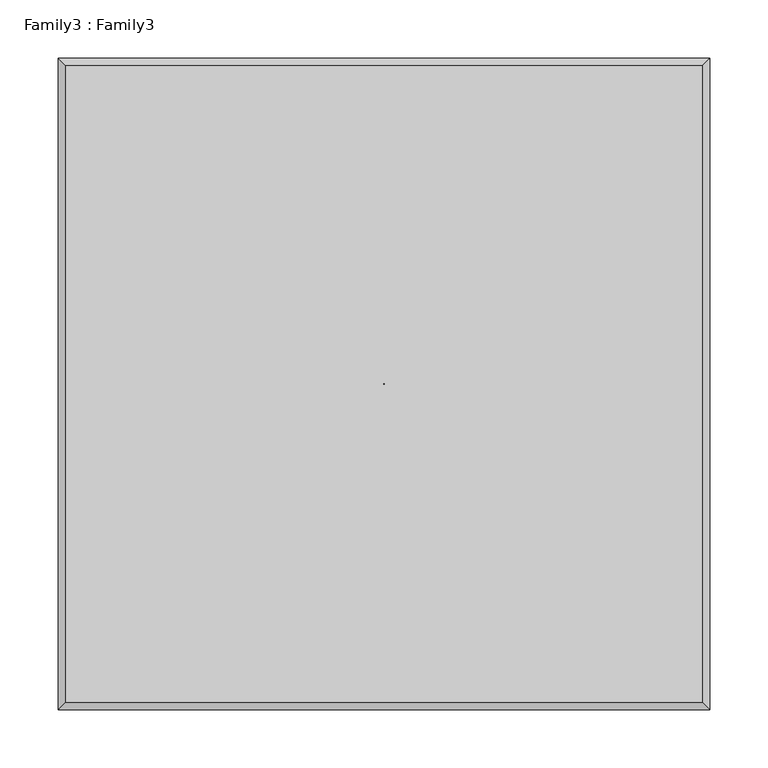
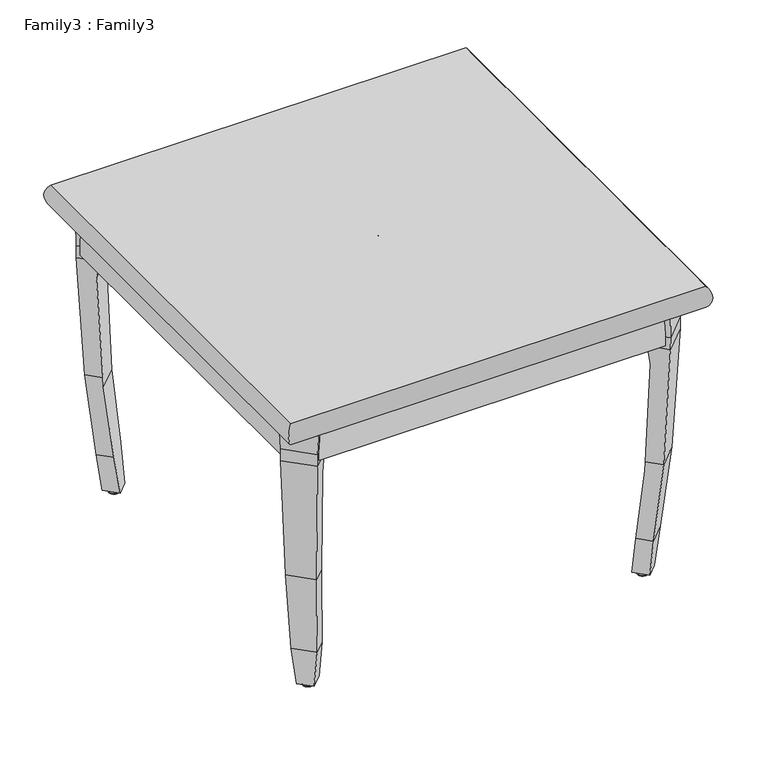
"""IFC4 building model written with IfcOpenShell, lengths in millimetres: furniture geometry, Family3 : Family3."""

from ifc_helpers import new_model, si_unit, point, frame, origin, place, context, project, spatial, polyline, circle_curve, ellipse_curve, trimmed, outline, extrude, faceted_brep, source, transform, mapped, element, save
from ifc_brep_helpers import plane_surface, cylinder_surface, revolved_surface, advanced_brep


def family3_family3_0510ef79(model_context):
    return source(origin(), model_context, "Body", "SolidModel", [
        advanced_brep(
        [(220.4861252, -221.2947805, 6.0), (214.8292712, -215.6379265, 6.0), (226.1429792, -226.9516345, 6.0), (224.5468978, -225.3555531, 0.0), (216.4253526, -217.2340079, 0.0), (220.4861252, -221.2947805, 0.0), (225.5579859, -226.3666412, 1.2429883), (215.4142646, -216.2229199, 1.2429883)],
        [
            (0, 1),
            (1, 2, circle_curve(frame((220.4861252, -221.2947805, 6.0), z_axis=(0.0, 0.0, 1.0), x_axis=(-0.7071067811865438, 0.7071067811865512, 0.0)), 7.9999997)),
            (2, 0),
            (2, 1, circle_curve(frame((220.4861252, -221.2947805, 6.0), z_axis=(0.0, 0.0, 1.0), x_axis=(-0.7071067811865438, 0.7071067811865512, 0.0)), 7.9999997)),
            (3, 4, circle_curve(frame((220.4861252, -221.2947805, 0.0), z_axis=(0.0, 0.0, -1.0), x_axis=(-0.7071067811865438, 0.7071067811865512, 0.0)), 5.7427997)),
            (4, 5),
            (5, 3),
            (4, 3, circle_curve(frame((220.4861252, -221.2947805, 0.0), z_axis=(0.0, 0.0, -1.0), x_axis=(-0.7071067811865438, 0.7071067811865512, 0.0)), 5.7427997)),
            (6, 7, circle_curve(frame((220.4861252, -221.2947805, 1.2429883), z_axis=(0.0, 0.0, -1.0), x_axis=(-0.7071067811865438, 0.7071067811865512, 0.0)), 7.1726941)),
            (7, 4, circle_curve(frame((217.1283684, -217.9370237, 2.5876597), z_axis=(-0.7071067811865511, -0.7071067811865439, 0.0), x_axis=(-0.7071067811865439, 0.7071067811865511, 0.0)), 2.7720832)),
            (3, 6, circle_curve(frame((223.8438821, -224.6525373, 2.5876597), z_axis=(-0.7071067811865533, -0.7071067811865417, 0.0), x_axis=(0.7071067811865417, -0.7071067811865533, 0.0)), 2.7720832)),
            (7, 6, circle_curve(frame((220.4861252, -221.2947805, 1.2429883), z_axis=(0.0, 0.0, -1.0), x_axis=(-0.7071067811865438, 0.7071067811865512, 0.0)), 7.1726941)),
            (1, 7),
            (6, 2),
        ],
        [
            plane_surface(frame((220.4861252, -221.2947805, 6.0), z_axis=(0.0, 0.0, 1.0), x_axis=(-0.7071067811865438, 0.7071067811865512, 0.0))),
            plane_surface(frame((220.4861252, -221.2947805, 0.0), z_axis=(0.0, 0.0, -1.0), x_axis=(-0.7071067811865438, 0.7071067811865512, 0.0))),
            revolved_surface(trimmed(ellipse_curve(frame((217.1283684, -217.9370237, 2.5876597), z_axis=(0.7071067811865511, 0.7071067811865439, 0.0), x_axis=(-0.7071067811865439, 0.7071067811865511, 0.0)), 2.7720832, 2.7720832), [point((216.4253526, -217.2340079, 0.0))], [point((215.4142646, -216.2229199, 1.2429883))], True, "CARTESIAN"), (220.4861252, -221.2947805, 6.0), (0.0, 0.0, 1.0)),
            revolved_surface(polyline([(215.4142646, -216.2229199, 1.2429883), (214.8292712, -215.6379265, 6.0)]), (220.4861252, -221.2947805, 6.0), (0.0, 0.0, 1.0)),
        ],
        [
            (0, [[1, 2, 3]]),
            (0, [[-3, 4, -1]]),
            (1, [[5, 6, 7]]),
            (1, [[8, -7, -6]]),
            (2, [[9, 10, -5, 11]]),
            (2, [[12, -11, -8, -10]]),
            (3, [[-2, 13, -9, 14]]),
            (3, [[-4, -14, -12, -13]]),
        ],
    ),
        faceted_brep([(238.7060123, -213.9503288, 156.4272796), (213.1416735, -239.5146676, 156.4272796), (213.3409314, -240.1748059, 168.9577284), (216.0835068, -246.9648054, 307.9477003), (246.1561501, -216.892162, 307.9477003), (239.3661506, -214.1495866, 168.9577284), (212.9372326, -244.5480588, 332.9999334), (243.7393984, -213.7458812, 332.9999866), (212.9391022, -244.5461774, 349.5791345), (211.7636244, -245.7216553, 382.9999869), (244.913, -212.5722797, 382.9999869), (243.7375221, -213.7477575, 349.5791345), (231.3651532, -265.3231841, 382.9999869), (264.5145288, -232.1738085, 382.9999869), (232.623116, -264.2301912, 349.5791345), (263.4215359, -233.4317713, 349.5791345), (232.3519026, -263.9589868, 332.8714334), (263.1503316, -233.1605579, 332.8714334), (228.5547052, -255.3885797, 168.9577284), (254.5799244, -229.3633605, 168.9577284), (221.5230668, -244.283162, 58.1995499), (243.4745067, -222.3317221, 58.1995499), (221.2332589, -236.4022841, 6.0), (235.5936288, -222.0419142, 6.0), (206.2348694, -221.4038945, 6.0), (220.5952392, -207.0435247, 6.0), (228.7314307, -207.588646, 58.1995499), (206.7799907, -229.5400859, 58.1995499)], [[[0, 1, 2, 3, 4, 5]], [[4, 3, 6, 7]], [[7, 6, 8, 9, 10, 11]], [[10, 9, 12, 13]], [[13, 12, 14, 15]], [[15, 14, 16, 17]], [[17, 16, 18, 19]], [[19, 18, 20, 21]], [[21, 20, 22, 23]], [[23, 22, 24, 25]], [[1, 0, 26, 25, 24, 27]], [[26, 21, 23, 25]], [[21, 26, 0, 5, 19]], [[7, 17, 19, 5, 4]], [[17, 7, 11, 15]], [[15, 11, 10, 13]], [[8, 14, 12, 9]], [[6, 16, 14, 8]], [[16, 6, 3, 2, 18]], [[18, 2, 1, 27, 20]], [[20, 27, 24, 22]]]),
        advanced_brep(
        [(-220.4861252, -221.2947805, 6.0), (-226.1429792, -226.9516345, 6.0), (-214.8292712, -215.6379265, 6.0), (-224.5468978, -225.3555531, 0.0), (-220.4861252, -221.2947805, 0.0), (-216.4253526, -217.2340079, 0.0), (-225.5579859, -226.3666412, 1.2429883), (-215.4142646, -216.2229199, 1.2429883)],
        [
            (0, 1),
            (1, 2, circle_curve(frame((-220.4861252, -221.2947805, 6.0), z_axis=(0.0, 0.0, 1.0), x_axis=(0.7071067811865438, 0.7071067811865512, 0.0)), 7.9999997)),
            (2, 0),
            (2, 1, circle_curve(frame((-220.4861252, -221.2947805, 6.0), z_axis=(0.0, 0.0, 1.0), x_axis=(0.7071067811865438, 0.7071067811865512, 0.0)), 7.9999997)),
            (3, 4),
            (4, 5),
            (5, 3, circle_curve(frame((-220.4861252, -221.2947805, 0.0), z_axis=(0.0, 0.0, -1.0), x_axis=(0.7071067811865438, 0.7071067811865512, 0.0)), 5.7427997)),
            (3, 5, circle_curve(frame((-220.4861252, -221.2947805, 0.0), z_axis=(0.0, 0.0, -1.0), x_axis=(0.7071067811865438, 0.7071067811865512, 0.0)), 5.7427997)),
            (6, 3, circle_curve(frame((-223.8438821, -224.6525373, 2.5876597), z_axis=(0.7071067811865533, -0.7071067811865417, 0.0), x_axis=(-0.7071067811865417, -0.7071067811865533, 0.0)), 2.7720832)),
            (5, 7, circle_curve(frame((-217.1283684, -217.9370237, 2.5876597), z_axis=(0.7071067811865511, -0.7071067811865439, 0.0), x_axis=(0.7071067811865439, 0.7071067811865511, 0.0)), 2.7720832)),
            (7, 6, circle_curve(frame((-220.4861252, -221.2947805, 1.2429883), z_axis=(0.0, 0.0, -1.0), x_axis=(0.7071067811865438, 0.7071067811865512, 0.0)), 7.1726941)),
            (6, 7, circle_curve(frame((-220.4861252, -221.2947805, 1.2429883), z_axis=(0.0, 0.0, -1.0), x_axis=(0.7071067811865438, 0.7071067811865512, 0.0)), 7.1726941)),
            (1, 6),
            (7, 2),
        ],
        [
            plane_surface(frame((-220.4861252, -221.2947805, 6.0), z_axis=(0.0, 0.0, 1.0), x_axis=(0.7071067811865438, 0.7071067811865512, 0.0))),
            plane_surface(frame((-220.4861252, -221.2947805, 0.0), z_axis=(0.0, 0.0, -1.0), x_axis=(0.7071067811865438, 0.7071067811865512, 0.0))),
            revolved_surface(trimmed(ellipse_curve(frame((-217.1283684, -217.9370237, 2.5876597), z_axis=(0.7071067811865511, -0.7071067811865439, 0.0), x_axis=(0.7071067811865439, 0.7071067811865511, 0.0)), 2.7720832, 2.7720832), [point((-216.4253526, -217.2340079, 0.0))], [point((-215.4142646, -216.2229199, 1.2429883))], True, "CARTESIAN"), (-220.4861252, -221.2947805, 6.0), (0.0, 0.0, 1.0)),
            revolved_surface(polyline([(-215.4142646, -216.2229199, 1.2429883), (-214.8292712, -215.6379265, 6.0)]), (-220.4861252, -221.2947805, 6.0), (0.0, 0.0, 1.0)),
        ],
        [
            (0, [[1, 2, 3]]),
            (0, [[-3, 4, -1]]),
            (1, [[5, 6, 7]]),
            (1, [[-6, -5, 8]]),
            (2, [[9, -7, 10, 11]]),
            (2, [[-10, -8, -9, 12]]),
            (3, [[13, -11, 14, -2]]),
            (3, [[-14, -12, -13, -4]]),
        ],
    ),
        faceted_brep([(-238.7060123, -213.9503288, 156.4272796), (-239.3661506, -214.1495866, 168.9577284), (-246.1561501, -216.892162, 307.9477003), (-216.0835068, -246.9648054, 307.9477003), (-213.3409314, -240.1748059, 168.9577284), (-213.1416735, -239.5146676, 156.4272796), (-243.7393984, -213.7458812, 332.9999866), (-212.9390977, -244.5461819, 332.9999866), (-243.7375221, -213.7477575, 349.5791345), (-244.913, -212.5722797, 382.9999869), (-211.7636244, -245.7216553, 382.9999869), (-212.9391022, -244.5461774, 349.5791345), (-264.5145288, -232.1738085, 382.9999869), (-231.3651532, -265.3231841, 382.9999869), (-263.4215359, -233.4317713, 349.5791345), (-232.623116, -264.2301912, 349.5791345), (-263.1503316, -233.1605579, 332.8714334), (-232.3519026, -263.9589868, 332.8714334), (-254.5799244, -229.3633605, 168.9577284), (-228.5547052, -255.3885797, 168.9577284), (-243.4745067, -222.3317221, 58.1995499), (-221.5230668, -244.283162, 58.1995499), (-235.5936288, -222.0419142, 6.0), (-221.2332589, -236.4022841, 6.0), (-220.5952392, -207.0435247, 6.0), (-206.2348694, -221.4038945, 6.0), (-206.7799907, -229.5400859, 58.1995499), (-228.7314307, -207.588646, 58.1995499)], [[[0, 1, 2, 3, 4, 5]], [[2, 6, 7, 3]], [[6, 8, 9, 10, 11, 7]], [[9, 12, 13, 10]], [[12, 14, 15, 13]], [[14, 16, 17, 15]], [[16, 18, 19, 17]], [[18, 20, 21, 19]], [[20, 22, 23, 21]], [[22, 24, 25, 23]], [[5, 26, 25, 24, 27, 0]], [[27, 24, 22, 20]], [[20, 18, 1, 0, 27]], [[6, 2, 1, 18, 16]], [[16, 14, 8, 6]], [[14, 12, 9, 8]], [[11, 10, 13, 15]], [[7, 11, 15, 17]], [[17, 19, 4, 3, 7]], [[19, 21, 26, 5, 4]], [[21, 23, 25, 26]]]),
        advanced_brep(
        [(-220.4861252, 221.2947805, 6.0), (-214.8292712, 215.6379265, 6.0), (-226.1429792, 226.9516345, 6.0), (-224.5468978, 225.3555531, 0.0), (-216.4253526, 217.2340079, 0.0), (-220.4861252, 221.2947805, 0.0), (-225.5579859, 226.3666412, 1.2429883), (-215.4142646, 216.2229199, 1.2429883)],
        [
            (0, 1),
            (1, 2, circle_curve(frame((-220.4861252, 221.2947805, 6.0), z_axis=(0.0, 0.0, 1.0), x_axis=(0.7071067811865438, -0.7071067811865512, 0.0)), 7.9999997)),
            (2, 0),
            (2, 1, circle_curve(frame((-220.4861252, 221.2947805, 6.0), z_axis=(0.0, 0.0, 1.0), x_axis=(0.7071067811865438, -0.7071067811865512, 0.0)), 7.9999997)),
            (3, 4, circle_curve(frame((-220.4861252, 221.2947805, 0.0), z_axis=(0.0, 0.0, -1.0), x_axis=(0.7071067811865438, -0.7071067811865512, 0.0)), 5.7427997)),
            (4, 5),
            (5, 3),
            (4, 3, circle_curve(frame((-220.4861252, 221.2947805, 0.0), z_axis=(0.0, 0.0, -1.0), x_axis=(0.7071067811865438, -0.7071067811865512, 0.0)), 5.7427997)),
            (6, 7, circle_curve(frame((-220.4861252, 221.2947805, 1.2429883), z_axis=(0.0, 0.0, -1.0), x_axis=(0.7071067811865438, -0.7071067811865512, 0.0)), 7.1726941)),
            (7, 4, circle_curve(frame((-217.1283684, 217.9370237, 2.5876597), z_axis=(0.7071067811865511, 0.7071067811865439, 0.0), x_axis=(0.7071067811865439, -0.7071067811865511, 0.0)), 2.7720832)),
            (3, 6, circle_curve(frame((-223.8438821, 224.6525373, 2.5876597), z_axis=(0.7071067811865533, 0.7071067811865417, 0.0), x_axis=(-0.7071067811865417, 0.7071067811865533, 0.0)), 2.7720832)),
            (7, 6, circle_curve(frame((-220.4861252, 221.2947805, 1.2429883), z_axis=(0.0, 0.0, -1.0), x_axis=(0.7071067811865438, -0.7071067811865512, 0.0)), 7.1726941)),
            (1, 7),
            (6, 2),
        ],
        [
            plane_surface(frame((-220.4861252, 221.2947805, 6.0), z_axis=(0.0, 0.0, 1.0), x_axis=(0.7071067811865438, -0.7071067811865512, 0.0))),
            plane_surface(frame((-220.4861252, 221.2947805, 0.0), z_axis=(0.0, 0.0, -1.0), x_axis=(0.7071067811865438, -0.7071067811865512, 0.0))),
            revolved_surface(trimmed(ellipse_curve(frame((-217.1283684, 217.9370237, 2.5876597), z_axis=(-0.7071067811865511, -0.7071067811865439, 0.0), x_axis=(0.7071067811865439, -0.7071067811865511, 0.0)), 2.7720832, 2.7720832), [point((-216.4253526, 217.2340079, 0.0))], [point((-215.4142646, 216.2229199, 1.2429883))], True, "CARTESIAN"), (-220.4861252, 221.2947805, 6.0), (0.0, 0.0, 1.0)),
            revolved_surface(polyline([(-215.4142646, 216.2229199, 1.2429883), (-214.8292712, 215.6379265, 6.0)]), (-220.4861252, 221.2947805, 6.0), (0.0, 0.0, 1.0)),
        ],
        [
            (0, [[1, 2, 3]]),
            (0, [[-3, 4, -1]]),
            (1, [[5, 6, 7]]),
            (1, [[8, -7, -6]]),
            (2, [[9, 10, -5, 11]]),
            (2, [[12, -11, -8, -10]]),
            (3, [[-2, 13, -9, 14]]),
            (3, [[-4, -14, -12, -13]]),
        ],
    ),
        faceted_brep([(-238.7060123, 213.9503288, 156.4272796), (-213.1416735, 239.5146676, 156.4272796), (-213.3409314, 240.1748059, 168.9577284), (-216.0835068, 246.9648054, 307.9477003), (-246.1561501, 216.892162, 307.9477003), (-239.3661506, 214.1495866, 168.9577284), (-212.9372326, 244.5480588, 332.9999334), (-243.7393984, 213.7458812, 332.9999866), (-212.9391022, 244.5461774, 349.5791345), (-211.7636244, 245.7216553, 382.9999869), (-244.913, 212.5722797, 382.9999869), (-243.7375221, 213.7477575, 349.5791345), (-231.3651532, 265.3231841, 382.9999869), (-264.5145288, 232.1738085, 382.9999869), (-232.623116, 264.2301912, 349.5791345), (-263.4215359, 233.4317713, 349.5791345), (-232.3519026, 263.9589868, 332.8714334), (-263.1503316, 233.1605579, 332.8714334), (-228.5547052, 255.3885797, 168.9577284), (-254.5799244, 229.3633605, 168.9577284), (-221.5230668, 244.283162, 58.1995499), (-243.4745067, 222.3317221, 58.1995499), (-221.2332589, 236.4022841, 6.0), (-235.5936288, 222.0419142, 6.0), (-206.2348694, 221.4038945, 6.0), (-220.5952392, 207.0435247, 6.0), (-228.7314307, 207.588646, 58.1995499), (-206.7799907, 229.5400859, 58.1995499)], [[[0, 1, 2, 3, 4, 5]], [[4, 3, 6, 7]], [[7, 6, 8, 9, 10, 11]], [[10, 9, 12, 13]], [[13, 12, 14, 15]], [[15, 14, 16, 17]], [[17, 16, 18, 19]], [[19, 18, 20, 21]], [[21, 20, 22, 23]], [[23, 22, 24, 25]], [[1, 0, 26, 25, 24, 27]], [[26, 21, 23, 25]], [[21, 26, 0, 5, 19]], [[7, 17, 19, 5, 4]], [[17, 7, 11, 15]], [[15, 11, 10, 13]], [[8, 14, 12, 9]], [[6, 16, 14, 8]], [[16, 6, 3, 2, 18]], [[18, 2, 1, 27, 20]], [[20, 27, 24, 22]]]),
        advanced_brep(
        [(220.4861252, 221.2947805, 6.0), (226.1429792, 226.9516345, 6.0), (214.8292712, 215.6379265, 6.0), (224.5468978, 225.3555531, 0.0), (220.4861252, 221.2947805, 0.0), (216.4253526, 217.2340079, 0.0), (225.5579859, 226.3666412, 1.2429883), (215.4142646, 216.2229199, 1.2429883)],
        [
            (0, 1),
            (1, 2, circle_curve(frame((220.4861252, 221.2947805, 6.0), z_axis=(0.0, 0.0, 1.0), x_axis=(-0.7071067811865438, -0.7071067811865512, 0.0)), 7.9999997)),
            (2, 0),
            (2, 1, circle_curve(frame((220.4861252, 221.2947805, 6.0), z_axis=(0.0, 0.0, 1.0), x_axis=(-0.7071067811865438, -0.7071067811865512, 0.0)), 7.9999997)),
            (3, 4),
            (4, 5),
            (5, 3, circle_curve(frame((220.4861252, 221.2947805, 0.0), z_axis=(0.0, 0.0, -1.0), x_axis=(-0.7071067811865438, -0.7071067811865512, 0.0)), 5.7427997)),
            (3, 5, circle_curve(frame((220.4861252, 221.2947805, 0.0), z_axis=(0.0, 0.0, -1.0), x_axis=(-0.7071067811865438, -0.7071067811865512, 0.0)), 5.7427997)),
            (6, 3, circle_curve(frame((223.8438821, 224.6525373, 2.5876597), z_axis=(-0.7071067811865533, 0.7071067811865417, 0.0), x_axis=(0.7071067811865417, 0.7071067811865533, 0.0)), 2.7720832)),
            (5, 7, circle_curve(frame((217.1283684, 217.9370237, 2.5876597), z_axis=(-0.7071067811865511, 0.7071067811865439, 0.0), x_axis=(-0.7071067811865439, -0.7071067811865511, 0.0)), 2.7720832)),
            (7, 6, circle_curve(frame((220.4861252, 221.2947805, 1.2429883), z_axis=(0.0, 0.0, -1.0), x_axis=(-0.7071067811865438, -0.7071067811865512, 0.0)), 7.1726941)),
            (6, 7, circle_curve(frame((220.4861252, 221.2947805, 1.2429883), z_axis=(0.0, 0.0, -1.0), x_axis=(-0.7071067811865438, -0.7071067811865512, 0.0)), 7.1726941)),
            (1, 6),
            (7, 2),
        ],
        [
            plane_surface(frame((220.4861252, 221.2947805, 6.0), z_axis=(0.0, 0.0, 1.0), x_axis=(-0.7071067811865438, -0.7071067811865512, 0.0))),
            plane_surface(frame((220.4861252, 221.2947805, 0.0), z_axis=(0.0, 0.0, -1.0), x_axis=(-0.7071067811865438, -0.7071067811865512, 0.0))),
            revolved_surface(trimmed(ellipse_curve(frame((217.1283684, 217.9370237, 2.5876597), z_axis=(-0.7071067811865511, 0.7071067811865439, 0.0), x_axis=(-0.7071067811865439, -0.7071067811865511, 0.0)), 2.7720832, 2.7720832), [point((216.4253526, 217.2340079, 0.0))], [point((215.4142646, 216.2229199, 1.2429883))], True, "CARTESIAN"), (220.4861252, 221.2947805, 6.0), (0.0, 0.0, 1.0)),
            revolved_surface(polyline([(215.4142646, 216.2229199, 1.2429883), (214.8292712, 215.6379265, 6.0)]), (220.4861252, 221.2947805, 6.0), (0.0, 0.0, 1.0)),
        ],
        [
            (0, [[1, 2, 3]]),
            (0, [[-3, 4, -1]]),
            (1, [[5, 6, 7]]),
            (1, [[-6, -5, 8]]),
            (2, [[9, -7, 10, 11]]),
            (2, [[-10, -8, -9, 12]]),
            (3, [[13, -11, 14, -2]]),
            (3, [[-14, -12, -13, -4]]),
        ],
    ),
        faceted_brep([(238.7060123, 213.9503288, 156.4272796), (239.3661506, 214.1495866, 168.9577284), (246.1561501, 216.892162, 307.9477003), (216.0835068, 246.9648054, 307.9477003), (213.3409314, 240.1748059, 168.9577284), (213.1416735, 239.5146676, 156.4272796), (243.7393984, 213.7458812, 332.9999866), (212.9390977, 244.5461819, 332.9999866), (243.7375221, 213.7477575, 349.5791345), (244.913, 212.5722797, 382.9999869), (211.7636244, 245.7216553, 382.9999869), (212.9391022, 244.5461774, 349.5791345), (264.5145288, 232.1738085, 382.9999869), (231.3651532, 265.3231841, 382.9999869), (263.4215359, 233.4317713, 349.5791345), (232.623116, 264.2301912, 349.5791345), (263.1503316, 233.1605579, 332.8714334), (232.3519026, 263.9589868, 332.8714334), (254.5799244, 229.3633605, 168.9577284), (228.5547052, 255.3885797, 168.9577284), (243.4745067, 222.3317221, 58.1995499), (221.5230668, 244.283162, 58.1995499), (235.5936288, 222.0419142, 6.0), (221.2332589, 236.4022841, 6.0), (220.5952392, 207.0435247, 6.0), (206.2348694, 221.4038945, 6.0), (206.7799907, 229.5400859, 58.1995499), (228.7314307, 207.588646, 58.1995499)], [[[0, 1, 2, 3, 4, 5]], [[2, 6, 7, 3]], [[6, 8, 9, 10, 11, 7]], [[9, 12, 13, 10]], [[12, 14, 15, 13]], [[14, 16, 17, 15]], [[16, 18, 19, 17]], [[18, 20, 21, 19]], [[20, 22, 23, 21]], [[22, 24, 25, 23]], [[5, 26, 25, 24, 27, 0]], [[27, 24, 22, 20]], [[20, 18, 1, 0, 27]], [[6, 2, 1, 18, 16]], [[16, 14, 8, 6]], [[14, 12, 9, 8]], [[11, 10, 13, 15]], [[7, 11, 15, 17]], [[17, 19, 4, 3, 7]], [[19, 21, 26, 5, 4]], [[21, 23, 25, 26]]]),
        advanced_brep(
        [(-0.1852477, -0.185284, 382.9999869), (-0.1852477, -0.185284, 412.5000031), (0.185284, -0.185284, 412.5000031), (0.185284, -0.185284, 382.9999869), (-273.4999665, -273.5000028, 412.5000031), (-273.4999665, -273.5000028, 382.9999869), (273.5000028, -273.5000028, 382.9999869), (273.5000028, -273.5000028, 412.5000031), (0.185284, 0.1852477, 412.5000031), (0.185284, 0.1852477, 382.9999869), (273.5000028, 273.4999665, 382.9999869), (273.5000028, 273.4999665, 412.5000031), (-0.1852477, 0.1852477, 412.5000031), (-0.1852477, 0.1852477, 382.9999869), (-273.4999665, 273.4999665, 382.9999869), (-273.4999665, 273.4999665, 412.5000031)],
        [
            (0, 1),
            (1, 2),
            (2, 3),
            (3, 0),
            (4, 5, ellipse_curve(frame((-258.0257851, -258.0258214, 397.749995), z_axis=(0.7071067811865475, -0.7071067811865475, 0.0), x_axis=(-0.7071067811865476, -0.7071067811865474, 0.0)), 30.2328639, 21.3778631)),
            (5, 6),
            (6, 7, ellipse_curve(frame((258.0258214, -258.0258214, 397.749995), z_axis=(-0.7071067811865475, -0.7071067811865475, 0.0), x_axis=(-0.7071067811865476, 0.7071067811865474, 0.0)), 30.2328639, 21.3778631)),
            (7, 4),
            (2, 8),
            (8, 9),
            (9, 3),
            (6, 10),
            (10, 11, ellipse_curve(frame((258.0258214, 258.0257851, 397.749995), z_axis=(0.7071067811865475, -0.7071067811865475, 0.0), x_axis=(-0.7071067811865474, -0.7071067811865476, 0.0)), 30.2328639, 21.3778631)),
            (11, 7),
            (8, 12),
            (12, 13),
            (13, 9),
            (10, 14),
            (14, 15, ellipse_curve(frame((-258.0257851, 258.0257851, 397.749995), z_axis=(0.7071067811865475, 0.7071067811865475, 0.0), x_axis=(0.7071067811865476, -0.7071067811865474, 0.0)), 30.2328639, 21.3778631)),
            (15, 11),
            (12, 1),
            (0, 13),
            (14, 5),
            (4, 15),
        ],
        [
            plane_surface(frame((-0.1852477, -0.185284, 412.5000031), z_axis=(0.0, 1.0, 0.0), x_axis=(1.0, 0.0, 0.0))),
            cylinder_surface(frame((-260.4852812, -258.0258214, 397.749995), z_axis=(-1.0, 0.0, 0.0), x_axis=(0.0, 1.0, 0.0)), 21.3778631),
            plane_surface(frame((0.185284, -0.185284, 412.5000031), z_axis=(-1.0, 0.0, 0.0), x_axis=(0.0, 1.0, 0.0))),
            cylinder_surface(frame((258.0258214, -260.4853176, 397.749995), z_axis=(0.0, -1.0, 0.0), x_axis=(-1.0, 0.0, 0.0)), 21.3778631),
            plane_surface(frame((0.185284, 0.1852477, 412.5000031), z_axis=(0.0, -1.0, 0.0), x_axis=(-1.0, 0.0, 0.0))),
            cylinder_surface(frame((260.4853176, 258.0257851, 397.749995), z_axis=(1.0, 0.0, 0.0), x_axis=(0.0, -1.0, 0.0)), 21.3778631),
            plane_surface(frame((-0.1852477, 0.1852477, 412.5000031), z_axis=(1.0, 0.0, 0.0), x_axis=(0.0, -1.0, 0.0))),
            cylinder_surface(frame((-258.0257851, 260.4852812, 397.749995), z_axis=(0.0, 1.0, 0.0), x_axis=(1.0, 0.0, 0.0)), 21.3778631),
            plane_surface(frame((0.185284, -0.185284, 382.9999869), z_axis=(0.0, 0.0, -1.0), x_axis=(0.0, 1.0, 0.0))),
            plane_surface(frame((273.5000028, -273.5000028, 412.5000031), z_axis=(0.0, 0.0, 1.0), x_axis=(0.0, 1.0, 0.0))),
        ],
        [
            (0, [[1, 2, 3, 4]]),
            (1, [[5, 6, 7, 8]]),
            (2, [[-3, 9, 10, 11]]),
            (3, [[-7, 12, 13, 14]]),
            (4, [[-10, 15, 16, 17]]),
            (5, [[-13, 18, 19, 20]]),
            (6, [[-16, 21, -1, 22]]),
            (7, [[-19, 23, -5, 24]]),
            (8, [[-12, -6, -23, -18], [-22, -4, -11, -17]]),
            (9, [[-24, -8, -14, -20], [-9, -2, -21, -15]]),
        ],
    ),
        extrude(outline(polyline([(-260.4852812, -235.8256062), (-260.4852812, 235.8256184), (-235.8256184, 260.4852812), (235.8256082, 260.4852812), (260.4853176, 235.8255719), (260.4853176, -235.8255582), (235.8255582, -260.4853176), (-235.8255698, -260.4853176), (-260.4852812, -235.8256062)]), holes=[polyline([(-241.9852817, -241.985284), (241.985284, -241.985284), (241.985284, 241.9852817), (-241.9852817, 241.9852817), (-241.9852817, -241.985284)])]), frame((0.0, 0.0, 338.0000084), z_axis=(0.0, 0.0, 1.0), x_axis=(1.0, 0.0, 0.0)), (0.0, 0.0, 1.0), 44.9999785),
    ])


if __name__ == "__main__":
    model = new_model("IFC4")
    model_context = context("Model", 3, world=origin())
    ifc_project = project(units=[si_unit("LENGTHUNIT", "METRE", prefix="MILLI")], contexts=[model_context])
    site = spatial("IfcSite", under=ifc_project)
    building = spatial("IfcBuilding", under=site)
    placement = place(None, origin())
    family3_family3_shape = family3_family3_0510ef79(model_context)
    element("IfcFurniture", 1, ObjectType="Family3 : Family3", at=placement, inside=building, context=model_context, shape_type="MappedRepresentation", body=[
        mapped(family3_family3_shape, transform((0.0, 0.0, 0.0), x_axis=(1.0, 0.0, 0.0), y_axis=(0.0, 1.0, 0.0), z_axis=(0.0, 0.0, 1.0))),
    ])
    save(model, "model.ifc")
